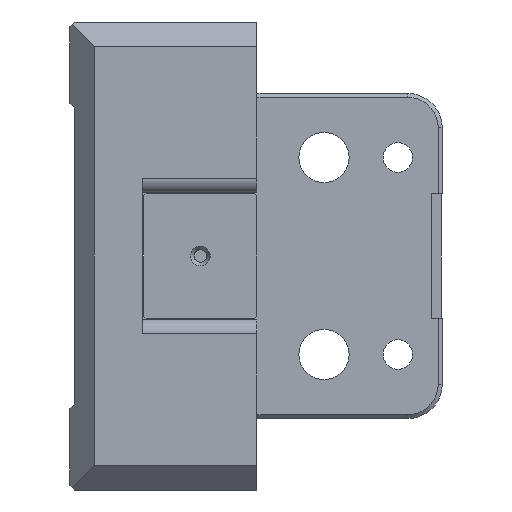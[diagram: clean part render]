
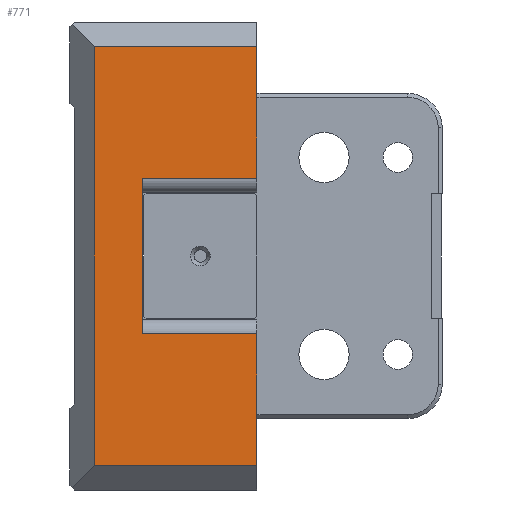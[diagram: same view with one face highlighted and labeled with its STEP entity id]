
A CAD part, left-side view. The second image highlights one B-rep face of the part: STEP entity #771.
In plain terms, the highlighted planar face has unit normal (-1, 0, 0).
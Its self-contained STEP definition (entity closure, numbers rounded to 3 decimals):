
#25 = CARTESIAN_POINT ( 'NONE',  ( -250., -5., 42.5 ) ) ;
#105 = DIRECTION ( 'NONE',  ( 0., 0., -1. ) ) ;
#130 = ORIENTED_EDGE ( 'NONE', *, *, #2045, .T. ) ;
#168 = AXIS2_PLACEMENT_3D ( 'NONE', #1339, #5076, #2592 ) ;
#279 = ORIENTED_EDGE ( 'NONE', *, *, #5268, .T. ) ;
#316 = EDGE_CURVE ( 'NONE', #4990, #4771, #2866, .T. ) ;
#411 = FACE_OUTER_BOUND ( 'NONE', #3775, .T. ) ;
#459 = VECTOR ( 'NONE', #5183, 1000. ) ;
#495 = EDGE_CURVE ( 'NONE', #2478, #4027, #3070, .T. ) ;
#771 = ADVANCED_FACE ( 'NONE', ( #411 ), #2170, .T. ) ;
#867 = CARTESIAN_POINT ( 'NONE',  ( -250., -38., 42.5 ) ) ;
#913 = CARTESIAN_POINT ( 'NONE',  ( -250., -14.8, 15.8 ) ) ;
#947 = LINE ( 'NONE', #1565, #4132 ) ;
#965 = ORIENTED_EDGE ( 'NONE', *, *, #4653, .F. ) ;
#1092 = VECTOR ( 'NONE', #2837, 1000. ) ;
#1328 = CARTESIAN_POINT ( 'NONE',  ( -250., -38., -47.5 ) ) ;
#1339 = CARTESIAN_POINT ( 'NONE',  ( -250., -38., -47.5 ) ) ;
#1358 = ORIENTED_EDGE ( 'NONE', *, *, #3688, .T. ) ;
#1565 = CARTESIAN_POINT ( 'NONE',  ( -250., -14.8, -15.8 ) ) ;
#1568 = LINE ( 'NONE', #2703, #459 ) ;
#1615 = VERTEX_POINT ( 'NONE', #1868 ) ;
#1683 = DIRECTION ( 'NONE',  ( 0., -1., 0. ) ) ;
#1868 = CARTESIAN_POINT ( 'NONE',  ( -250., -38., -42.5 ) ) ;
#2045 = EDGE_CURVE ( 'NONE', #2547, #2478, #5276, .T. ) ;
#2170 = PLANE ( 'NONE',  #168 ) ;
#2173 = ORIENTED_EDGE ( 'NONE', *, *, #495, .T. ) ;
#2212 = DIRECTION ( 'NONE',  ( 0., 0., 1. ) ) ;
#2315 = VECTOR ( 'NONE', #105, 1000. ) ;
#2370 = DIRECTION ( 'NONE',  ( 0., 1., 0. ) ) ;
#2478 = VERTEX_POINT ( 'NONE', #867 ) ;
#2525 = CARTESIAN_POINT ( 'NONE',  ( -250., -14.8, -15.8 ) ) ;
#2547 = VERTEX_POINT ( 'NONE', #4240 ) ;
#2582 = EDGE_CURVE ( 'NONE', #4027, #4658, #3408, .T. ) ;
#2590 = CARTESIAN_POINT ( 'NONE',  ( -250., -5., -47.5 ) ) ;
#2592 = DIRECTION ( 'NONE',  ( 0., 0., 1. ) ) ;
#2599 = ORIENTED_EDGE ( 'NONE', *, *, #4712, .T. ) ;
#2703 = CARTESIAN_POINT ( 'NONE',  ( -250., -14.8, 15.8 ) ) ;
#2773 = LINE ( 'NONE', #4515, #1092 ) ;
#2783 = CARTESIAN_POINT ( 'NONE',  ( -250., -38., 42.5 ) ) ;
#2837 = DIRECTION ( 'NONE',  ( 0., -1., 0. ) ) ;
#2854 = CARTESIAN_POINT ( 'NONE',  ( -250., -14.8, -15.8 ) ) ;
#2866 = LINE ( 'NONE', #2525, #3999 ) ;
#2867 = VERTEX_POINT ( 'NONE', #913 ) ;
#3070 = LINE ( 'NONE', #2783, #3927 ) ;
#3188 = VECTOR ( 'NONE', #4650, 1000. ) ;
#3219 = VECTOR ( 'NONE', #2212, 1000. ) ;
#3297 = ORIENTED_EDGE ( 'NONE', *, *, #316, .F. ) ;
#3408 = LINE ( 'NONE', #2590, #2315 ) ;
#3688 = EDGE_CURVE ( 'NONE', #2867, #2547, #1568, .T. ) ;
#3775 = EDGE_LOOP ( 'NONE', ( #3830, #2599, #279, #3297, #965, #1358, #130, #2173 ) ) ;
#3830 = ORIENTED_EDGE ( 'NONE', *, *, #2582, .T. ) ;
#3927 = VECTOR ( 'NONE', #2370, 1000. ) ;
#3999 = VECTOR ( 'NONE', #1683, 1000. ) ;
#4027 = VERTEX_POINT ( 'NONE', #25 ) ;
#4132 = VECTOR ( 'NONE', #4479, 1000. ) ;
#4240 = CARTESIAN_POINT ( 'NONE',  ( -250., -38., 15.8 ) ) ;
#4285 = CARTESIAN_POINT ( 'NONE',  ( -250., -38., -47.5 ) ) ;
#4479 = DIRECTION ( 'NONE',  ( 0., 0., -1. ) ) ;
#4515 = CARTESIAN_POINT ( 'NONE',  ( -250., -38., -42.5 ) ) ;
#4543 = CARTESIAN_POINT ( 'NONE',  ( -250., -38., -15.8 ) ) ;
#4650 = DIRECTION ( 'NONE',  ( 0., 0., 1. ) ) ;
#4653 = EDGE_CURVE ( 'NONE', #2867, #4990, #947, .T. ) ;
#4658 = VERTEX_POINT ( 'NONE', #5308 ) ;
#4712 = EDGE_CURVE ( 'NONE', #4658, #1615, #2773, .T. ) ;
#4771 = VERTEX_POINT ( 'NONE', #4543 ) ;
#4990 = VERTEX_POINT ( 'NONE', #2854 ) ;
#5076 = DIRECTION ( 'NONE',  ( -1., 0., 0. ) ) ;
#5183 = DIRECTION ( 'NONE',  ( 0., -1., 0. ) ) ;
#5268 = EDGE_CURVE ( 'NONE', #1615, #4771, #5301, .T. ) ;
#5276 = LINE ( 'NONE', #1328, #3188 ) ;
#5301 = LINE ( 'NONE', #4285, #3219 ) ;
#5308 = CARTESIAN_POINT ( 'NONE',  ( -250., -5., -42.5 ) ) ;
